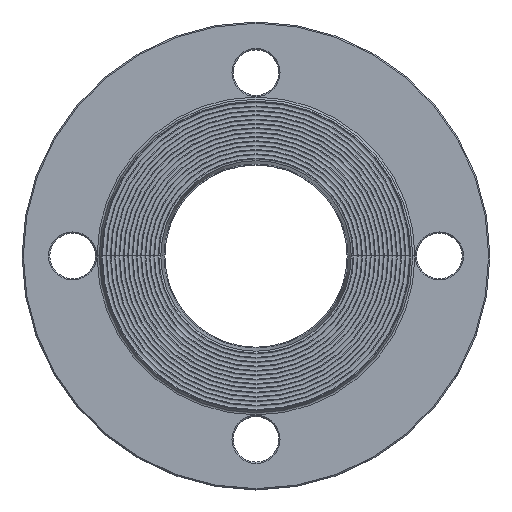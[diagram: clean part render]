
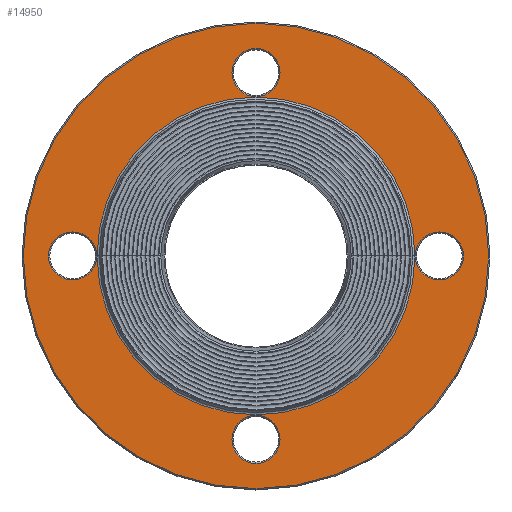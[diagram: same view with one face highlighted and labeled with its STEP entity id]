
A CAD part, top view. The second image highlights one B-rep face of the part: STEP entity #14950.
In plain terms, the highlighted planar face has unit normal (0, 0, 1).
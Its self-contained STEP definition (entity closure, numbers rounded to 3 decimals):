
#13300=CARTESIAN_POINT('',(119.5,182.5,16.));
#13310=VERTEX_POINT('',#13300);
#13340=CARTESIAN_POINT('',(110.,182.5,16.));
#13350=DIRECTION('',(0.,0.,1.));
#13360=DIRECTION('',(1.,0.,0.));
#13370=AXIS2_PLACEMENT_3D('',#13340,#13350,#13360);
#13380=CIRCLE('',#13370,9.5);
#13390=CARTESIAN_POINT('',(100.5,182.5,16.));
#13400=VERTEX_POINT('',#13390);
#13410=EDGE_CURVE('',#13400,#13310,#13380,.T.);
#13610=EDGE_CURVE('',#13310,#13400,#13380,.T.);
#14110=CARTESIAN_POINT('',(190.069,110.,16.));
#14120=DIRECTION('',(-0.,0.,1.));
#14130=DIRECTION('',(1.,0.,0.));
#14140=AXIS2_PLACEMENT_3D('',#14110,#14120,#14130);
#14150=PLANE('',#14140);
#14160=CARTESIAN_POINT('',(37.5,110.,16.));
#14170=DIRECTION('',(0.,0.,1.));
#14180=DIRECTION('',(1.,0.,0.));
#14190=AXIS2_PLACEMENT_3D('',#14160,#14170,#14180);
#14200=CIRCLE('',#14190,9.5);
#14210=CARTESIAN_POINT('',(47.,110.,16.));
#14220=VERTEX_POINT('',#14210);
#14230=CARTESIAN_POINT('',(28.,110.,16.));
#14240=VERTEX_POINT('',#14230);
#14250=EDGE_CURVE('',#14220,#14240,#14200,.T.);
#14260=ORIENTED_EDGE('',*,*,#14250,.F.);
#14270=EDGE_CURVE('',#14240,#14220,#14200,.T.);
#14280=ORIENTED_EDGE('',*,*,#14270,.F.);
#14290=EDGE_LOOP('',(#14280,#14260));
#14300=FACE_BOUND('',#14290,.T.);
#14310=CARTESIAN_POINT('',(110.,37.5,16.));
#14320=DIRECTION('',(0.,0.,1.));
#14330=DIRECTION('',(1.,0.,0.));
#14340=AXIS2_PLACEMENT_3D('',#14310,#14320,#14330);
#14350=CIRCLE('',#14340,9.5);
#14360=CARTESIAN_POINT('',(119.5,37.5,16.));
#14370=VERTEX_POINT('',#14360);
#14380=CARTESIAN_POINT('',(100.5,37.5,16.));
#14390=VERTEX_POINT('',#14380);
#14400=EDGE_CURVE('',#14370,#14390,#14350,.T.);
#14410=ORIENTED_EDGE('',*,*,#14400,.F.);
#14420=EDGE_CURVE('',#14390,#14370,#14350,.T.);
#14430=ORIENTED_EDGE('',*,*,#14420,.F.);
#14440=EDGE_LOOP('',(#14430,#14410));
#14450=FACE_BOUND('',#14440,.T.);
#14460=CARTESIAN_POINT('',(110.,110.,16.));
#14470=DIRECTION('',(0.,0.,1.));
#14480=DIRECTION('',(-1.,0.,0.));
#14490=AXIS2_PLACEMENT_3D('',#14460,#14470,#14480);
#14500=CIRCLE('',#14490,62.832);
#14510=CARTESIAN_POINT('',(172.832,110.,16.));
#14520=VERTEX_POINT('',#14510);
#14530=CARTESIAN_POINT('',(47.168,110.,16.));
#14540=VERTEX_POINT('',#14530);
#14550=EDGE_CURVE('',#14520,#14540,#14500,.T.);
#14560=ORIENTED_EDGE('',*,*,#14550,.F.);
#14570=EDGE_CURVE('',#14540,#14520,#14500,.T.);
#14580=ORIENTED_EDGE('',*,*,#14570,.F.);
#14590=EDGE_LOOP('',(#14580,#14560));
#14600=FACE_BOUND('',#14590,.T.);
#14610=CARTESIAN_POINT('',(182.5,110.,16.));
#14620=DIRECTION('',(0.,0.,1.));
#14630=DIRECTION('',(1.,0.,0.));
#14640=AXIS2_PLACEMENT_3D('',#14610,#14620,#14630);
#14650=CIRCLE('',#14640,9.5);
#14660=CARTESIAN_POINT('',(192.,110.,16.));
#14670=VERTEX_POINT('',#14660);
#14680=CARTESIAN_POINT('',(173.,110.,16.));
#14690=VERTEX_POINT('',#14680);
#14700=EDGE_CURVE('',#14670,#14690,#14650,.T.);
#14710=ORIENTED_EDGE('',*,*,#14700,.F.);
#14720=EDGE_CURVE('',#14690,#14670,#14650,.T.);
#14730=ORIENTED_EDGE('',*,*,#14720,.F.);
#14740=EDGE_LOOP('',(#14730,#14710));
#14750=FACE_BOUND('',#14740,.T.);
#14760=ORIENTED_EDGE('',*,*,#13610,.F.);
#14770=ORIENTED_EDGE('',*,*,#13410,.F.);
#14780=EDGE_LOOP('',(#14770,#14760));
#14790=FACE_BOUND('',#14780,.T.);
#14800=CARTESIAN_POINT('',(110.,110.,16.));
#14810=DIRECTION('',(0.,0.,1.));
#14820=DIRECTION('',(1.,0.,0.));
#14830=AXIS2_PLACEMENT_3D('',#14800,#14810,#14820);
#14840=CIRCLE('',#14830,92.);
#14850=CARTESIAN_POINT('',(202.,110.,16.));
#14860=VERTEX_POINT('',#14850);
#14870=CARTESIAN_POINT('',(18.,110.,16.));
#14880=VERTEX_POINT('',#14870);
#14890=EDGE_CURVE('',#14860,#14880,#14840,.T.);
#14900=ORIENTED_EDGE('',*,*,#14890,.T.);
#14910=EDGE_CURVE('',#14880,#14860,#14840,.T.);
#14920=ORIENTED_EDGE('',*,*,#14910,.T.);
#14930=EDGE_LOOP('',(#14920,#14900));
#14940=FACE_OUTER_BOUND('',#14930,.T.);
#14950=ADVANCED_FACE('',(#14300,#14450,#14600,#14750,#14790,#14940),
#14150,.T.);
